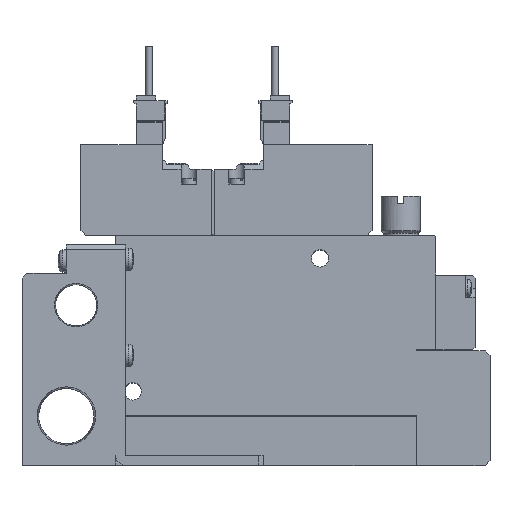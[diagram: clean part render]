
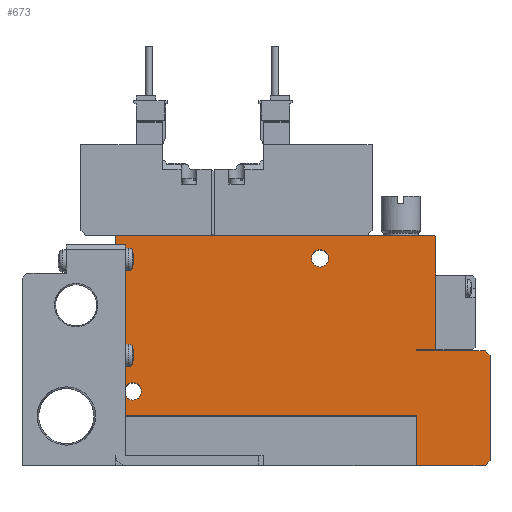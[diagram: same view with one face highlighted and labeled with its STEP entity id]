
A CAD part, top view. The second image highlights one B-rep face of the part: STEP entity #673.
In plain terms, the highlighted planar face has unit normal (0, 0, 1).
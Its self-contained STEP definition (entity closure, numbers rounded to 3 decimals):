
#673=ADVANCED_FACE('',(#1496,#1497,#1498),#1499,.F.);
#1496=FACE_OUTER_BOUND('',#2671,.T.);
#1497=FACE_BOUND('',#2672,.T.);
#1498=FACE_BOUND('',#2673,.T.);
#1499=PLANE('',#2674);
#2671=EDGE_LOOP('',(#5490,#5491,#5492,#5493,#5494,#5495,#5496,#5497,#5498,#5499,#5500,#5501,#5502,#5503));
#2672=EDGE_LOOP('',(#5504));
#2673=EDGE_LOOP('',(#5505));
#2674=AXIS2_PLACEMENT_3D('',#5506,#5507,#5508);
#5490=ORIENTED_EDGE('',*,*,#7923,.T.);
#5491=ORIENTED_EDGE('',*,*,#7924,.F.);
#5492=ORIENTED_EDGE('',*,*,#7925,.F.);
#5493=ORIENTED_EDGE('',*,*,#7926,.T.);
#5494=ORIENTED_EDGE('',*,*,#7927,.T.);
#5495=ORIENTED_EDGE('',*,*,#7909,.T.);
#5496=ORIENTED_EDGE('',*,*,#7928,.T.);
#5497=ORIENTED_EDGE('',*,*,#7921,.T.);
#5498=ORIENTED_EDGE('',*,*,#7929,.T.);
#5499=ORIENTED_EDGE('',*,*,#7930,.T.);
#5500=ORIENTED_EDGE('',*,*,#7931,.T.);
#5501=ORIENTED_EDGE('',*,*,#7932,.T.);
#5502=ORIENTED_EDGE('',*,*,#7933,.T.);
#5503=ORIENTED_EDGE('',*,*,#7913,.T.);
#5504=ORIENTED_EDGE('',*,*,#7934,.F.);
#5505=ORIENTED_EDGE('',*,*,#7935,.F.);
#5506=CARTESIAN_POINT('',(0.0,0.0,5.0));
#5507=DIRECTION('',(0.0,0.0,-1.0));
#5508=DIRECTION('',(0.0,-1.0,0.0));
#7909=EDGE_CURVE('',#9617,#9615,#9618,.T.);
#7913=EDGE_CURVE('',#9625,#9623,#9626,.T.);
#7921=EDGE_CURVE('',#9641,#9639,#9642,.T.);
#7923=EDGE_CURVE('',#9623,#9644,#9645,.T.);
#7924=EDGE_CURVE('',#9646,#9644,#9647,.T.);
#7925=EDGE_CURVE('',#9648,#9646,#9649,.T.);
#7926=EDGE_CURVE('',#9648,#9650,#9651,.T.);
#7927=EDGE_CURVE('',#9650,#9617,#9652,.T.);
#7928=EDGE_CURVE('',#9615,#9641,#9653,.T.);
#7929=EDGE_CURVE('',#9639,#9654,#9655,.T.);
#7930=EDGE_CURVE('',#9654,#9656,#9657,.T.);
#7931=EDGE_CURVE('',#9656,#9658,#9659,.T.);
#7932=EDGE_CURVE('',#9658,#9660,#9661,.T.);
#7933=EDGE_CURVE('',#9660,#9625,#9662,.T.);
#7934=EDGE_CURVE('',#9663,#9663,#9664,.T.);
#7935=EDGE_CURVE('',#9665,#9665,#9666,.T.);
#9615=VERTEX_POINT('',#12351);
#9617=VERTEX_POINT('',#12354);
#9618=LINE('',#12355,#12356);
#9623=VERTEX_POINT('',#12363);
#9625=VERTEX_POINT('',#12366);
#9626=LINE('',#12367,#12368);
#9639=VERTEX_POINT('',#12387);
#9641=VERTEX_POINT('',#12390);
#9642=LINE('',#12391,#12392);
#9644=VERTEX_POINT('',#12395);
#9645=LINE('',#12396,#12397);
#9646=VERTEX_POINT('',#12398);
#9647=LINE('',#12399,#12400);
#9648=VERTEX_POINT('',#12401);
#9649=LINE('',#12402,#12403);
#9650=VERTEX_POINT('',#12404);
#9651=LINE('',#12405,#12406);
#9652=LINE('',#12407,#12408);
#9653=LINE('',#12409,#12410);
#9654=VERTEX_POINT('',#12411);
#9655=LINE('',#12412,#12413);
#9656=VERTEX_POINT('',#12414);
#9657=LINE('',#12415,#12416);
#9658=VERTEX_POINT('',#12417);
#9659=LINE('',#12418,#12419);
#9660=VERTEX_POINT('',#12420);
#9661=LINE('',#12421,#12422);
#9662=LINE('',#12423,#12424);
#9663=VERTEX_POINT('',#12425);
#9664=CIRCLE('',#12426,1.75);
#9665=VERTEX_POINT('',#12427);
#9666=CIRCLE('',#12428,1.75);
#12351=CARTESIAN_POINT('',(76.0,22.25,5.0));
#12354=CARTESIAN_POINT('',(76.0,1.0,5.0));
#12355=CARTESIAN_POINT('',(76.0,1.0,5.0));
#12356=VECTOR('',#15198,1.0);
#12363=CARTESIAN_POINT('',(0.0,46.4,5.0));
#12366=CARTESIAN_POINT('',(0.2,46.6,5.0));
#12367=CARTESIAN_POINT('',(0.2,46.6,5.0));
#12368=VECTOR('',#15202,1.0);
#12387=CARTESIAN_POINT('',(61.0,23.25,5.0));
#12390=CARTESIAN_POINT('',(75.0,23.25,5.0));
#12391=CARTESIAN_POINT('',(75.0,23.25,5.0));
#12392=VECTOR('',#15210,1.0);
#12395=CARTESIAN_POINT('',(0.0,10.1,5.0));
#12396=CARTESIAN_POINT('',(0.0,46.4,5.0));
#12397=VECTOR('',#15212,1.0);
#12398=CARTESIAN_POINT('',(61.1,10.1,5.0));
#12399=CARTESIAN_POINT('',(61.1,10.1,5.0));
#12400=VECTOR('',#15213,1.0);
#12401=CARTESIAN_POINT('',(61.1,0.0,5.0));
#12402=CARTESIAN_POINT('',(61.1,0.0,5.0));
#12403=VECTOR('',#15214,1.0);
#12404=CARTESIAN_POINT('',(75.0,0.0,5.0));
#12405=CARTESIAN_POINT('',(0.0,0.0,5.0));
#12406=VECTOR('',#15215,1.0);
#12407=CARTESIAN_POINT('',(75.0,0.0,5.0));
#12408=VECTOR('',#15216,1.0);
#12409=CARTESIAN_POINT('',(76.0,22.25,5.0));
#12410=VECTOR('',#15217,1.0);
#12411=CARTESIAN_POINT('',(61.0,23.5,5.0));
#12412=CARTESIAN_POINT('',(61.0,23.25,5.0));
#12413=VECTOR('',#15218,1.0);
#12414=CARTESIAN_POINT('',(65.0,23.5,5.0));
#12415=CARTESIAN_POINT('',(61.0,23.5,5.0));
#12416=VECTOR('',#15219,1.0);
#12417=CARTESIAN_POINT('',(65.0,46.4,5.0));
#12418=CARTESIAN_POINT('',(65.0,23.5,5.0));
#12419=VECTOR('',#15220,1.0);
#12420=CARTESIAN_POINT('',(64.8,46.6,5.0));
#12421=CARTESIAN_POINT('',(65.0,46.4,5.0));
#12422=VECTOR('',#15221,1.0);
#12423=CARTESIAN_POINT('',(64.8,46.6,5.0));
#12424=VECTOR('',#15222,1.0);
#12425=CARTESIAN_POINT('',(5.25,15.0,5.0));
#12426=AXIS2_PLACEMENT_3D('',#15223,#15224,#15225);
#12427=CARTESIAN_POINT('',(43.25,42.0,5.0));
#12428=AXIS2_PLACEMENT_3D('',#15226,#15227,#15228);
#15198=DIRECTION('',(0.0,1.0,0.0));
#15202=DIRECTION('',(-0.707,-0.707,0.0));
#15210=DIRECTION('',(-1.0,0.0,0.0));
#15212=DIRECTION('',(0.0,-1.0,0.0));
#15213=DIRECTION('',(-1.0,0.0,0.0));
#15214=DIRECTION('',(0.0,1.0,0.0));
#15215=DIRECTION('',(1.0,0.0,0.0));
#15216=DIRECTION('',(0.707,0.707,0.0));
#15217=DIRECTION('',(-0.707,0.707,0.0));
#15218=DIRECTION('',(0.0,1.0,0.0));
#15219=DIRECTION('',(1.0,0.,0.0));
#15220=DIRECTION('',(0.0,1.0,0.0));
#15221=DIRECTION('',(-0.707,0.707,0.0));
#15222=DIRECTION('',(-1.0,0.0,0.0));
#15223=CARTESIAN_POINT('',(3.5,15.0,5.0));
#15224=DIRECTION('',(0.0,0.0,1.0));
#15225=DIRECTION('',(1.0,0.0,0.0));
#15226=CARTESIAN_POINT('',(41.5,42.0,5.0));
#15227=DIRECTION('',(0.0,0.0,1.0));
#15228=DIRECTION('',(1.0,0.0,0.0));
